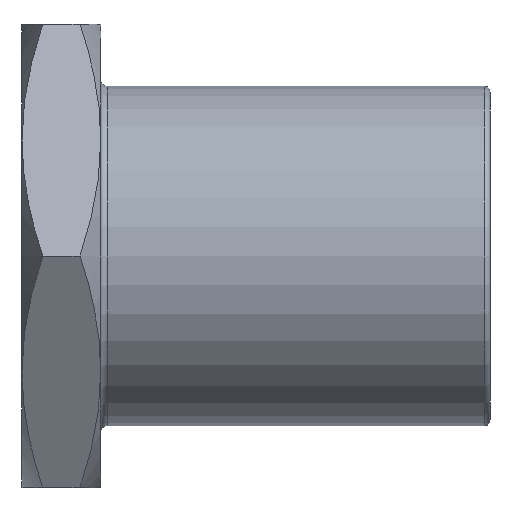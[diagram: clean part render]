
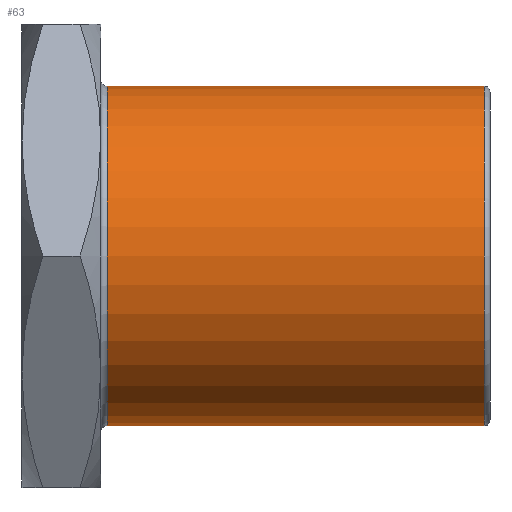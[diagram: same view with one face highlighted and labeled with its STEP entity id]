
A CAD part, front view. The second image highlights one B-rep face of the part: STEP entity #63.
In plain terms, the highlighted cylindrical face has radius 10.995 mm (diameter 21.99 mm), a full revolution.
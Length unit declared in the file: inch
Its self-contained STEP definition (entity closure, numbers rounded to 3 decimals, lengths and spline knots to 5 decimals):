
#63 = ADVANCED_FACE( '', ( #143, #144 ), #145, .T. );
#143 = FACE_OUTER_BOUND( '', #240, .T. );
#144 = FACE_OUTER_BOUND( '', #241, .T. );
#145 = CYLINDRICAL_SURFACE( '', #242, 0.43287 );
#240 = EDGE_LOOP( '', ( #355 ) );
#241 = EDGE_LOOP( '', ( #356 ) );
#242 = AXIS2_PLACEMENT_3D( '', #357, #358, #359 );
#355 = ORIENTED_EDGE( '', *, *, #543, .F. );
#356 = ORIENTED_EDGE( '', *, *, #544, .T. );
#357 = CARTESIAN_POINT( '', ( 1.19291, 0., 0. ) );
#358 = DIRECTION( '', ( -1., 0., 0. ) );
#359 = DIRECTION( '', ( 0., 0., -1. ) );
#543 = EDGE_CURVE( '', #638, #638, #639, .T. );
#544 = EDGE_CURVE( '', #640, #640, #641, .T. );
#638 = VERTEX_POINT( '', #810 );
#639 = CIRCLE( '', #811, 0.43287 );
#640 = VERTEX_POINT( '', #812 );
#641 = CIRCLE( '', #813, 0.43287 );
#810 = CARTESIAN_POINT( '', ( 1.17791, 0., -0.43287 ) );
#811 = AXIS2_PLACEMENT_3D( '', #992, #993, #994 );
#812 = CARTESIAN_POINT( '', ( 0.21679, 0., -0.43287 ) );
#813 = AXIS2_PLACEMENT_3D( '', #995, #996, #997 );
#992 = CARTESIAN_POINT( '', ( 1.17791, 0., 0. ) );
#993 = DIRECTION( '', ( 1., 0., 0. ) );
#994 = DIRECTION( '', ( 0., 0., -1. ) );
#995 = CARTESIAN_POINT( '', ( 0.21679, 0., 0. ) );
#996 = DIRECTION( '', ( 1., 0., 0. ) );
#997 = DIRECTION( '', ( 0., 0., -1. ) );
